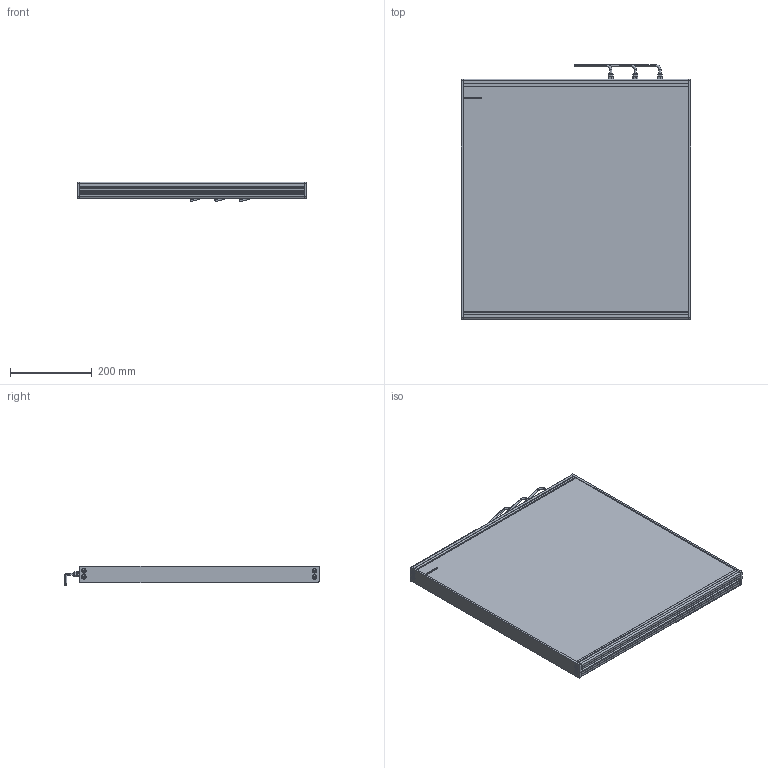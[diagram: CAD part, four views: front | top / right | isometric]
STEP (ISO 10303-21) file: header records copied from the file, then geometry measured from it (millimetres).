
FILE_DESCRIPTION (( 'STEP AP214' ), '1' );
FILE_NAME ('EFFI-BL-550T-550+3M12.STEP', '2021-07-02T07:52:42', ( '' ), ( '' ), 'SwSTEP 2.0', 'SolidWorks 2021', '' );
FILE_SCHEMA (( 'AUTOMOTIVE_DESIGN' ));
Length unit declared in the file: millimetre
Products named in the file (7): 003776; profile modif_lg 99.5 mm; cordon_Avec cable; EFFI-BL-550T-550+3M12; Pièce2^EFFI-BL-XXXT-YYY + 3 M12; bord fin modif_lg 436.5 mm
Assembly tree (16 placements, depth 2):
  EFFI-BL-550T-550+3M12
    profile modif_lg 99.5 mm
    bord fin modif_lg 436.5 mm  x2
    Pièce2^EFFI-BL-XXXT-YYY + 3 M12
    profile modif_lg 99.5 mm
    003776  x8
    cordon_Avec cable  x3
Bounding box: 560 x 621.15 x 48.18 mm (x, y, z)
Volume: 11336912.2 mm3; surface area: 961286.5 mm2
Topology: 13 solids, 31 shells, 748 faces, 1882 edges, 1207 vertices
Faces by surface type: plane 417, bspline 143, cylinder 136, torus 30, cone 22
Entity records: 16678 total; most frequent: CARTESIAN_POINT 5372, ORIENTED_EDGE 2208, DIRECTION 1926, EDGE_CURVE 1108, LINE 802, VECTOR 802, VERTEX_POINT 730, AXIS2_PLACEMENT_3D 562
